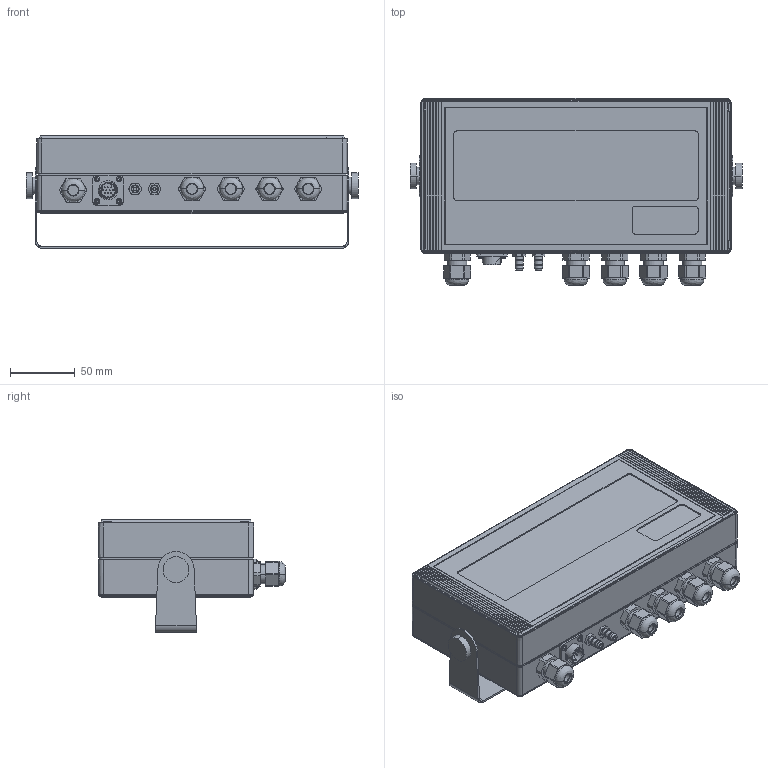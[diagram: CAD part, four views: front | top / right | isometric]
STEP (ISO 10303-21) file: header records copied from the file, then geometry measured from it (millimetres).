
FILE_DESCRIPTION((''),'2;1');
FILE_NAME('CA310_BUS_SW0001','2016-06-24T',('REFT'),(''),'PRO/ENGINEER BY PARAMETRIC TECHNOLOGY CORPORATION, 2012420','PRO/ENGINEER BY PARAMETRIC TECHNOLOGY CORPORATION, 2012420','');
FILE_SCHEMA(('CONFIG_CONTROL_DESIGN'));
Length unit declared in the file: millimetre
Products named in the file (1): CA310_BUS_SW0001
Bounding box: 257 x 144.78 x 87.2 mm (x, y, z)
Volume: 1730250.9 mm3; surface area: 147266.7 mm2
Topology: 1 solids, 2 shells, 928 faces, 2314 edges, 1475 vertices
Faces by surface type: plane 421, cylinder 345, cone 48, torus 43, bspline 32, sphere 21, revolution 10, extrusion 8
Entity records: 31358 total; most frequent: CARTESIAN_POINT 9241, ORIENTED_EDGE 4566, DIRECTION 4563, EDGE_CURVE 2283, AXIS2_PLACEMENT_3D 1658, VERTEX_POINT 1475, VECTOR 1237, LINE 1229
